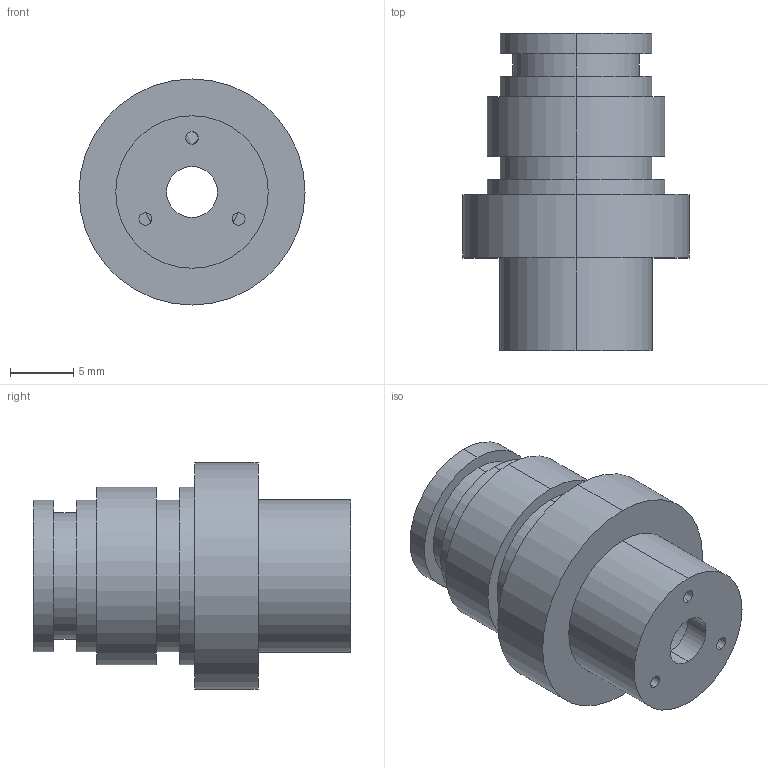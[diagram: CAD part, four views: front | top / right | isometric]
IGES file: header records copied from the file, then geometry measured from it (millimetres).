
Start section: SolidWorks IGES FILE using analytic representation for surfaces
Global section: file name: \\intra-srv04\開発データ\CAD_Data\CAD委員会\3D電子ｶﾀﾛｸﾞ\製品カタログ（新）\0_IGES\ER-VAS.IGS,41HSolidWorks 2004; native system: by SolidWorks Corporation; preprocessor: Version 5.3; author: mf1158; date: 050906.113836; units: millimetre
Bounding box: 17.8 x 25 x 17.8 mm (x, y, z)
Volume: 2566.4 mm3; surface area: 2361.7 mm2
Topology: 1 solids, 1 shells, 42 faces, 98 edges, 62 vertices
Faces by surface type: revolution 28, plane 14
